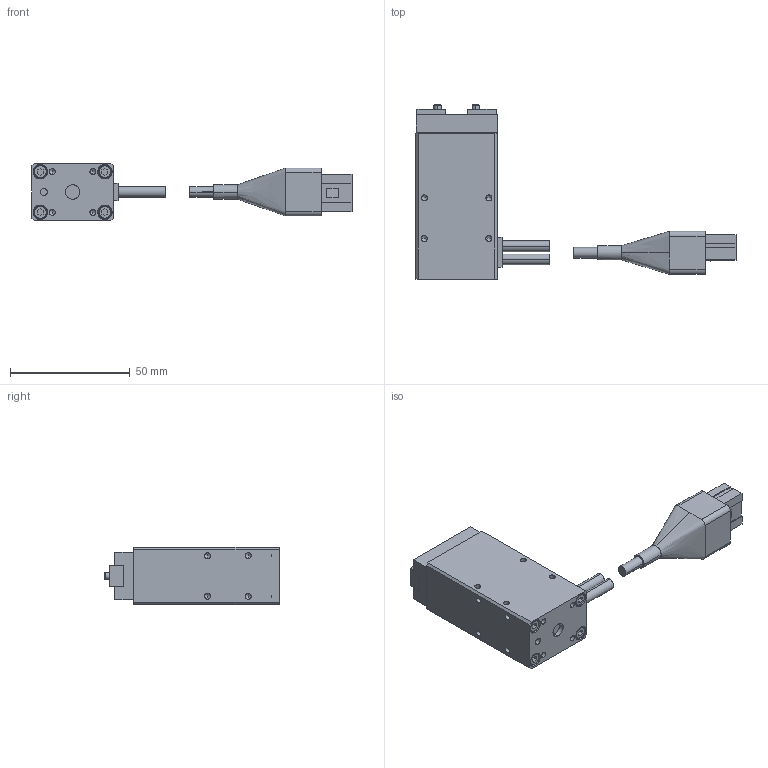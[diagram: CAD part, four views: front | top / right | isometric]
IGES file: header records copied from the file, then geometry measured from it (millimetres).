
Start section: SolidWorks IGES file using analytic representation for surfaces
Global section: file name: G:\SW2007図面\TAIYO\電動機器３Ｄ\電動グリッパ　２爪\ESG1-SS-2010.IGS; native system: SolidWorks 2007; preprocessor: SolidWorks 2007; author: 風音庵,,1; organization: 1; date: 090212.172854; units: millimetre
Bounding box: 133.89 x 73 x 24 mm (x, y, z)
Surface area: 19887.2 mm2 (no closed solid volume)
Topology: 0 solids, 0 shells, 338 faces, 3330 edges, 3290 vertices
Faces by surface type: bspline 202, revolution 136
